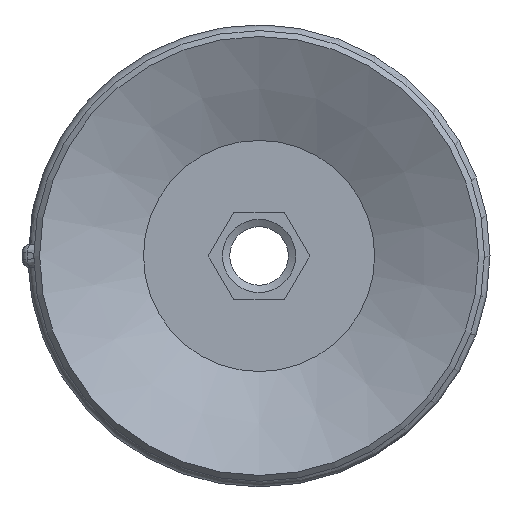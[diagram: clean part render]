
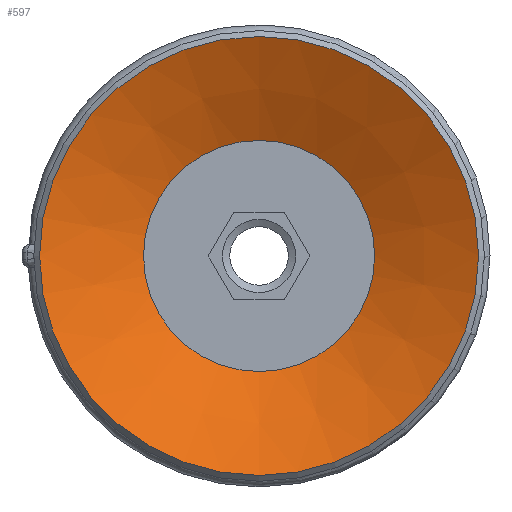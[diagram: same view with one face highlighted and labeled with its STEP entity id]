
A CAD part, front view. The second image highlights one B-rep face of the part: STEP entity #597.
In plain terms, the highlighted conical face has half-angle 64 degrees and reference radius 3.95 mm.
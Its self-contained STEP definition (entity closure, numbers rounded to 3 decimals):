
#597=ADVANCED_FACE('',(#882,#883),#884,.F.);
#882=FACE_BOUND('',#1228,.T.);
#883=FACE_OUTER_BOUND('',#1229,.T.);
#884=CONICAL_SURFACE('',#1230,3.95,1.117);
#1228=EDGE_LOOP('',(#2038));
#1229=EDGE_LOOP('',(#2039));
#1230=AXIS2_PLACEMENT_3D('',#2040,#2041,#2042);
#2038=ORIENTED_EDGE('',*,*,#2437,.F.);
#2039=ORIENTED_EDGE('',*,*,#2438,.T.);
#2040=CARTESIAN_POINT('',(0.0,-29.404,-47.168));
#2041=DIRECTION('',(-0.0,0.,1.0));
#2042=DIRECTION('',(0.0,-1.0,0.));
#2437=EDGE_CURVE('',#2780,#2780,#2781,.T.);
#2438=EDGE_CURVE('',#2782,#2782,#2783,.T.);
#2780=VERTEX_POINT('',#3364);
#2781=CIRCLE('',#3365,3.95);
#2782=VERTEX_POINT('',#3366);
#2783=CIRCLE('',#3367,7.5);
#3364=CARTESIAN_POINT('',(0.0,-33.354,-47.168));
#3365=AXIS2_PLACEMENT_3D('',#3803,#3804,#3805);
#3366=CARTESIAN_POINT('',(0.0,-36.904,-45.437));
#3367=AXIS2_PLACEMENT_3D('',#3806,#3807,#3808);
#3803=CARTESIAN_POINT('',(0.0,-29.404,-47.168));
#3804=DIRECTION('',(0.0,0.,1.0));
#3805=DIRECTION('',(0.0,-1.0,0.));
#3806=CARTESIAN_POINT('',(0.0,-29.404,-45.437));
#3807=DIRECTION('',(0.0,0.,1.0));
#3808=DIRECTION('',(0.0,-1.0,0.));
